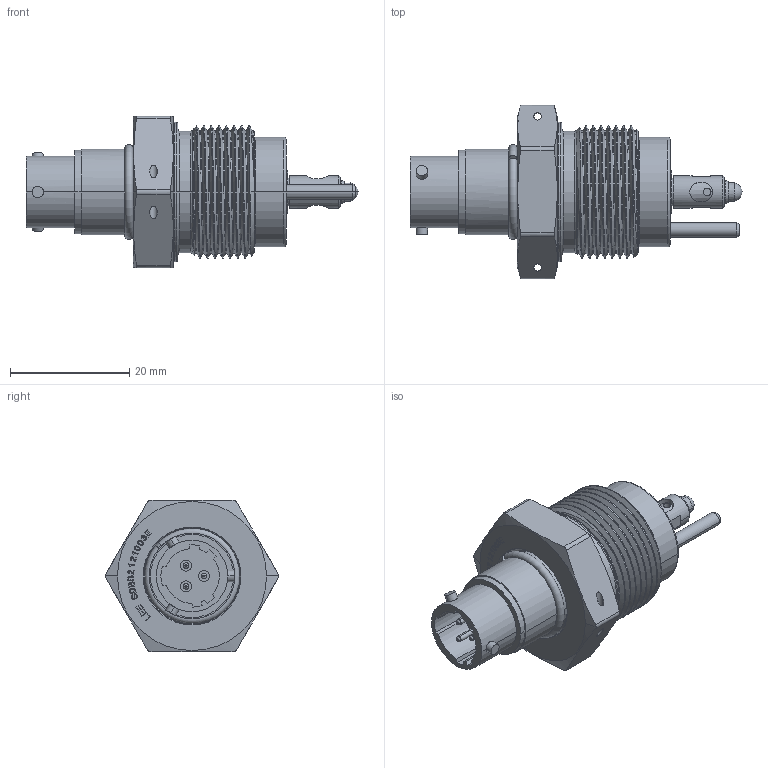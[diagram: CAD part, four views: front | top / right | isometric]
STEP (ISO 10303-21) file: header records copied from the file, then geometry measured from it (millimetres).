
FILE_DESCRIPTION(('Creo Elements/Direct Modeling STEP Export'),'2;1');
FILE_NAME('SDBB2121003E.stp','2021-11-08T 8:40:31',(''),(''),'Creo Elements/Direct Modeling STEP processor for AP214 (Solid Model)','Creo Elements/Direct Modeling 18.1 03-Mar-2012 (C) Parametric Technology GmbH','');
FILE_SCHEMA(('AUTOMOTIVE_DESIGN { 1 0 10303 214 1 1 1 1 }'));
Length unit declared in the file: millimetre
Products named in the file (1): SDBB2121003E
Bounding box: 55.79 x 29.09 x 25.4 mm (x, y, z)
Volume: 12342.6 mm3; surface area: 4912.2 mm2
Topology: 1 solids, 1 shells, 790 faces, 2208 edges, 1466 vertices
Faces by surface type: plane 636, cylinder 101, cone 28, torus 21, bspline 2, sphere 2
Entity records: 31714 total; most frequent: CARTESIAN_POINT 10955, ORIENTED_EDGE 4412, DIRECTION 3586, EDGE_CURVE 2206, VECTOR 1814, LINE 1814, VERTEX_POINT 1466, AXIS2_PLACEMENT_3D 886
